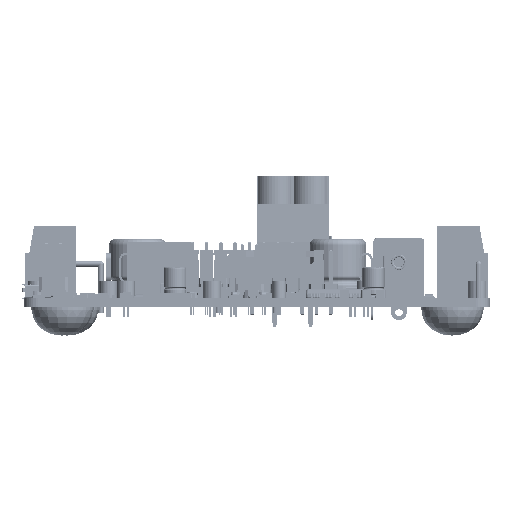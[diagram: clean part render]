
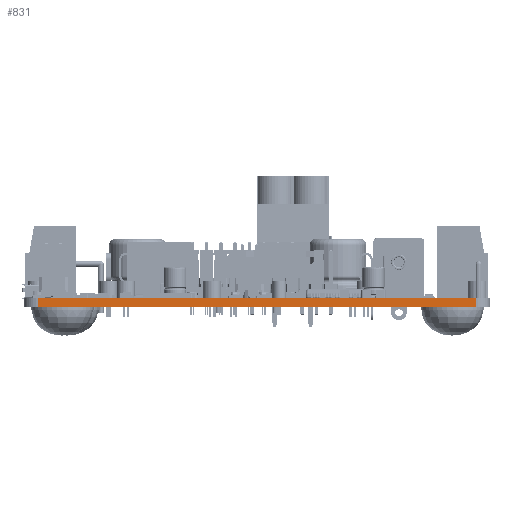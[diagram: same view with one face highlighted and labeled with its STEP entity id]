
A CAD part, left-side view. The second image highlights one B-rep face of the part: STEP entity #831.
In plain terms, the highlighted planar face has unit normal (-1, 0, 0).
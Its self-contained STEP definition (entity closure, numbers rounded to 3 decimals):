
#804 = VERTEX_POINT('',#805);
#805 = CARTESIAN_POINT('',(0.,2.54,1.575));
#812 = EDGE_CURVE('',#813,#804,#815,.T.);
#813 = VERTEX_POINT('',#814);
#814 = CARTESIAN_POINT('',(0.,2.54,0.));
#815 = LINE('',#816,#817);
#816 = CARTESIAN_POINT('',(0.,2.54,0.));
#817 = VECTOR('',#818,1.);
#818 = DIRECTION('',(0.,0.,1.));
#831 = ADVANCED_FACE('',(#832),#857,.T.);
#832 = FACE_BOUND('',#833,.T.);
#833 = EDGE_LOOP('',(#834,#835,#843,#851));
#834 = ORIENTED_EDGE('',*,*,#812,.T.);
#835 = ORIENTED_EDGE('',*,*,#836,.T.);
#836 = EDGE_CURVE('',#804,#837,#839,.T.);
#837 = VERTEX_POINT('',#838);
#838 = CARTESIAN_POINT('',(0.,80.01,1.575));
#839 = LINE('',#840,#841);
#840 = CARTESIAN_POINT('',(0.,2.54,1.575));
#841 = VECTOR('',#842,1.);
#842 = DIRECTION('',(0.,1.,0.));
#843 = ORIENTED_EDGE('',*,*,#844,.F.);
#844 = EDGE_CURVE('',#845,#837,#847,.T.);
#845 = VERTEX_POINT('',#846);
#846 = CARTESIAN_POINT('',(0.,80.01,0.));
#847 = LINE('',#848,#849);
#848 = CARTESIAN_POINT('',(0.,80.01,0.));
#849 = VECTOR('',#850,1.);
#850 = DIRECTION('',(0.,0.,1.));
#851 = ORIENTED_EDGE('',*,*,#852,.F.);
#852 = EDGE_CURVE('',#813,#845,#853,.T.);
#853 = LINE('',#854,#855);
#854 = CARTESIAN_POINT('',(0.,2.54,0.));
#855 = VECTOR('',#856,1.);
#856 = DIRECTION('',(0.,1.,0.));
#857 = PLANE('',#858);
#858 = AXIS2_PLACEMENT_3D('',#859,#860,#861);
#859 = CARTESIAN_POINT('',(0.,2.54,0.));
#860 = DIRECTION('',(-1.,0.,0.));
#861 = DIRECTION('',(0.,1.,0.));
